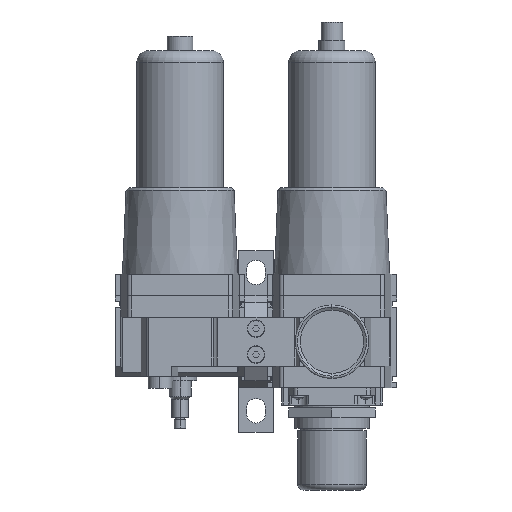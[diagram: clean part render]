
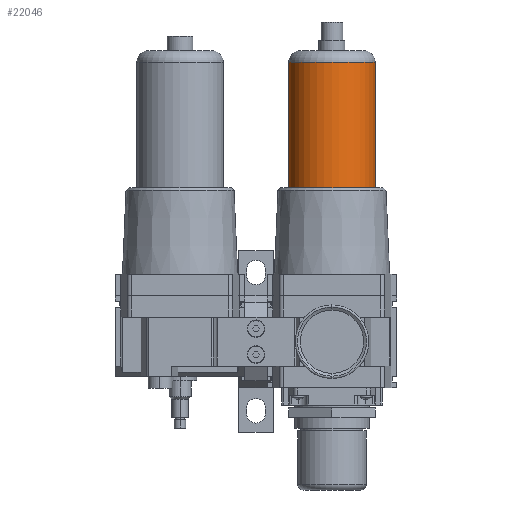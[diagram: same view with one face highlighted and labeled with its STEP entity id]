
A CAD part, front view. The second image highlights one B-rep face of the part: STEP entity #22046.
In plain terms, the highlighted cylindrical face has radius 30 mm (diameter 60 mm), a partial arc.
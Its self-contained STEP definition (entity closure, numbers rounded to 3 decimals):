
#277 = ORIENTED_EDGE ( 'NONE', *, *, #2927, .F. ) ;
#529 = CARTESIAN_POINT ( 'NONE',  ( 30., 0., -425. ) ) ;
#700 = VERTEX_POINT ( 'NONE', #16825 ) ;
#1745 = AXIS2_PLACEMENT_3D ( 'NONE', #20587, #5343, #18940 ) ;
#1784 = ORIENTED_EDGE ( 'NONE', *, *, #21995, .T. ) ;
#2584 = CARTESIAN_POINT ( 'NONE',  ( -30., 0., -425. ) ) ;
#2927 = EDGE_CURVE ( 'NONE', #3811, #10715, #19691, .T. ) ;
#3811 = VERTEX_POINT ( 'NONE', #11861 ) ;
#3913 = CARTESIAN_POINT ( 'NONE',  ( 30., 0., 75. ) ) ;
#4045 = CYLINDRICAL_SURFACE ( 'NONE', #7361, 30. ) ;
#5343 = DIRECTION ( 'NONE',  ( 0., 0., -1. ) ) ;
#6390 = EDGE_CURVE ( 'NONE', #15468, #700, #12623, .T. ) ;
#7182 = EDGE_LOOP ( 'NONE', ( #277, #10699, #14571, #1784 ) ) ;
#7233 = DIRECTION ( 'NONE',  ( 0., 0., -1. ) ) ;
#7361 = AXIS2_PLACEMENT_3D ( 'NONE', #15612, #22720, #7944 ) ;
#7944 = DIRECTION ( 'NONE',  ( 1., 0., 0. ) ) ;
#8085 = AXIS2_PLACEMENT_3D ( 'NONE', #24463, #7233, #14909 ) ;
#8439 = DIRECTION ( 'NONE',  ( 0., 0., 1. ) ) ;
#8975 = CIRCLE ( 'NONE', #1745, 30. ) ;
#9886 = CARTESIAN_POINT ( 'NONE',  ( -30., 0., 162. ) ) ;
#10699 = ORIENTED_EDGE ( 'NONE', *, *, #19371, .F. ) ;
#10715 = VERTEX_POINT ( 'NONE', #9886 ) ;
#11861 = CARTESIAN_POINT ( 'NONE',  ( -30., 0., 75. ) ) ;
#12623 = LINE ( 'NONE', #529, #19972 ) ;
#12764 = VECTOR ( 'NONE', #14047, 1000. ) ;
#14047 = DIRECTION ( 'NONE',  ( 0., 0., 1. ) ) ;
#14571 = ORIENTED_EDGE ( 'NONE', *, *, #6390, .T. ) ;
#14909 = DIRECTION ( 'NONE',  ( 1., 0., 0. ) ) ;
#15468 = VERTEX_POINT ( 'NONE', #3913 ) ;
#15612 = CARTESIAN_POINT ( 'NONE',  ( 0., 0., -425. ) ) ;
#16825 = CARTESIAN_POINT ( 'NONE',  ( 30., 0., 162. ) ) ;
#18940 = DIRECTION ( 'NONE',  ( 1., 0., 0. ) ) ;
#18943 = CIRCLE ( 'NONE', #8085, 30. ) ;
#19371 = EDGE_CURVE ( 'NONE', #15468, #3811, #18943, .T. ) ;
#19691 = LINE ( 'NONE', #2584, #12764 ) ;
#19972 = VECTOR ( 'NONE', #8439, 1000. ) ;
#20587 = CARTESIAN_POINT ( 'NONE',  ( 0., 0., 162. ) ) ;
#21995 = EDGE_CURVE ( 'NONE', #700, #10715, #8975, .T. ) ;
#22046 = ADVANCED_FACE ( 'NONE', ( #24471 ), #4045, .T. ) ;
#22720 = DIRECTION ( 'NONE',  ( 0., 0., 1. ) ) ;
#24463 = CARTESIAN_POINT ( 'NONE',  ( 0., 0., 75. ) ) ;
#24471 = FACE_OUTER_BOUND ( 'NONE', #7182, .T. ) ;
